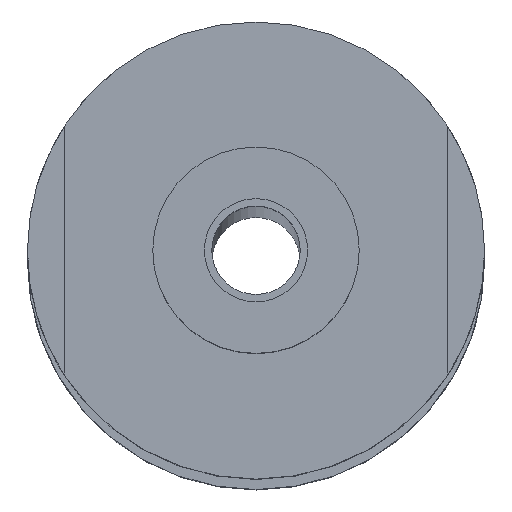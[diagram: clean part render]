
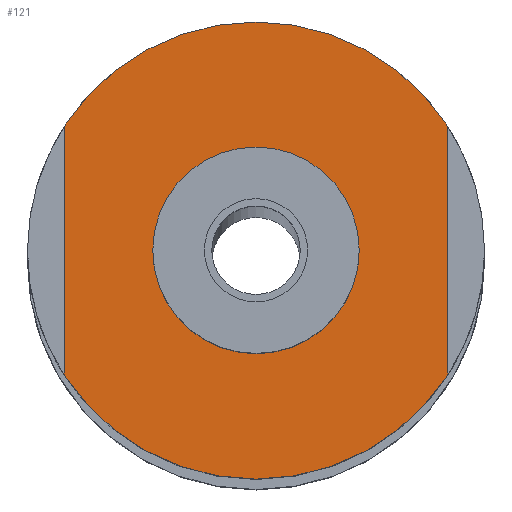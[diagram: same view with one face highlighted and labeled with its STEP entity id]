
A CAD part, top view. The second image highlights one B-rep face of the part: STEP entity #121.
In plain terms, the highlighted planar face has unit normal (0, 0, 1).
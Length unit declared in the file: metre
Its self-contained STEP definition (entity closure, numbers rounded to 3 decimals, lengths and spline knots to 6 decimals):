
#121=ADVANCED_FACE('37:1511',(#238,#239),#240,.T.);
#238=FACE_OUTER_BOUND('',#364,.T.);
#239=FACE_BOUND('',#365,.T.);
#240=PLANE('',#366);
#364=EDGE_LOOP('',(#596,#597,#598,#599,#600,#601));
#365=EDGE_LOOP('',(#602,#603));
#366=AXIS2_PLACEMENT_3D('',#604,#605,#606);
#596=ORIENTED_EDGE('',*,*,#761,.F.);
#597=ORIENTED_EDGE('',*,*,#760,.F.);
#598=ORIENTED_EDGE('',*,*,#756,.F.);
#599=ORIENTED_EDGE('',*,*,#688,.F.);
#600=ORIENTED_EDGE('',*,*,#687,.F.);
#601=ORIENTED_EDGE('',*,*,#751,.T.);
#602=ORIENTED_EDGE('',*,*,#749,.F.);
#603=ORIENTED_EDGE('',*,*,#693,.F.);
#604=CARTESIAN_POINT('',(0.0,0.0,2.785));
#605=DIRECTION('',(0.0,0.0,1.0));
#606=DIRECTION('',(1.0,0.0,0.0));
#687=EDGE_CURVE('37:1561',#812,#814,#815,.F.);
#688=EDGE_CURVE('37:1552',#814,#816,#817,.F.);
#693=EDGE_CURVE('',#822,#825,#826,.T.);
#749=EDGE_CURVE('37:1539',#825,#822,#907,.T.);
#751=EDGE_CURVE('37:3142',#812,#909,#910,.T.);
#756=EDGE_CURVE('37:2641',#816,#917,#918,.F.);
#760=EDGE_CURVE('37:1558',#917,#922,#923,.F.);
#761=EDGE_CURVE('37:1549',#922,#909,#924,.F.);
#812=VERTEX_POINT('',#1001);
#814=VERTEX_POINT('',#1004);
#815=CIRCLE('',#1005,0.0155);
#816=VERTEX_POINT('',#1006);
#817=CIRCLE('',#1007,0.0155);
#822=VERTEX_POINT('',#1013);
#825=VERTEX_POINT('',#1017);
#826=CIRCLE('',#1018,0.007);
#907=CIRCLE('',#1116,0.007);
#909=VERTEX_POINT('',#1118);
#910=LINE('',#1119,#1120);
#917=VERTEX_POINT('',#1130);
#918=LINE('',#1131,#1132);
#922=VERTEX_POINT('',#1137);
#923=CIRCLE('',#1138,0.0155);
#924=CIRCLE('',#1139,0.0155);
#1001=CARTESIAN_POINT('',(-0.013092,0.008536,2.785));
#1004=CARTESIAN_POINT('',(-0.000092,0.015595,2.785));
#1005=AXIS2_PLACEMENT_3D('',#1221,#1222,#1223);
#1006=CARTESIAN_POINT('',(0.012908,0.008536,2.785));
#1007=AXIS2_PLACEMENT_3D('',#1224,#1225,#1226);
#1013=CARTESIAN_POINT('',(0.006908,0.000095,2.785));
#1017=CARTESIAN_POINT('',(-0.007092,0.000095,2.785));
#1018=AXIS2_PLACEMENT_3D('',#1232,#1233,#1234);
#1116=AXIS2_PLACEMENT_3D('',#1318,#1319,#1320);
#1118=CARTESIAN_POINT('',(-0.013092,-0.008346,2.785));
#1119=CARTESIAN_POINT('',(-0.013092,0.000048,2.785));
#1120=VECTOR('',#1321,1.0);
#1130=CARTESIAN_POINT('',(0.012908,-0.008346,2.785));
#1131=CARTESIAN_POINT('',(0.012908,0.000048,2.785));
#1132=VECTOR('',#1325,1.0);
#1137=CARTESIAN_POINT('',(-0.000092,-0.015405,2.785));
#1138=AXIS2_PLACEMENT_3D('',#1330,#1331,#1332);
#1139=AXIS2_PLACEMENT_3D('',#1333,#1334,#1335);
#1221=CARTESIAN_POINT('',(-0.000092,0.000095,2.785));
#1222=DIRECTION('',(0.0,0.0,1.0));
#1223=DIRECTION('',(1.0,0.0,0.0));
#1224=CARTESIAN_POINT('',(-0.000092,0.000095,2.785));
#1225=DIRECTION('',(0.0,0.0,1.0));
#1226=DIRECTION('',(1.0,0.0,0.0));
#1232=CARTESIAN_POINT('',(-0.000092,0.000095,2.785));
#1233=DIRECTION('',(0.0,0.0,1.0));
#1234=DIRECTION('',(1.0,0.0,-0.0));
#1318=CARTESIAN_POINT('',(-0.000092,0.000095,2.785));
#1319=DIRECTION('',(0.0,0.0,1.0));
#1320=DIRECTION('',(1.0,0.0,-0.0));
#1321=DIRECTION('',(0.,-1.0,0.0));
#1325=DIRECTION('',(0.,1.0,0.0));
#1330=CARTESIAN_POINT('',(-0.000092,0.000095,2.785));
#1331=DIRECTION('',(0.0,0.0,1.0));
#1332=DIRECTION('',(1.0,0.0,0.0));
#1333=CARTESIAN_POINT('',(-0.000092,0.000095,2.785));
#1334=DIRECTION('',(0.0,0.0,1.0));
#1335=DIRECTION('',(1.0,0.0,0.0));
